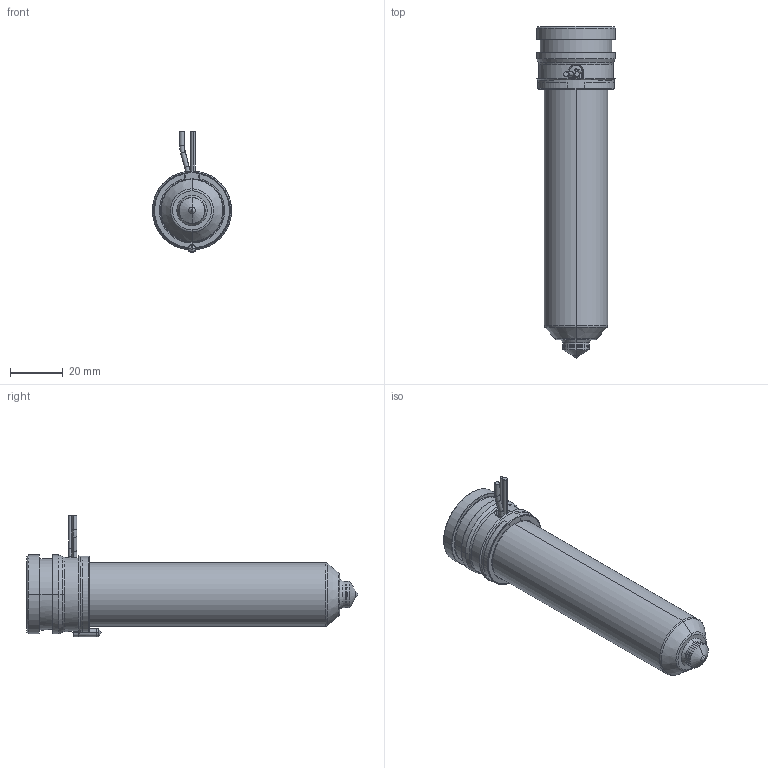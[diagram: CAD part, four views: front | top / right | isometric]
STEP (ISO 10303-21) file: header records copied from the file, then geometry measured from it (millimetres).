
FILE_DESCRIPTION((''),'2;1');
FILE_NAME('MPN-10-29-TS10-106-A','2026-02-05T12:33:06',('UPTIO'),('Thermoplay S.p.A.'),'CREO PARAMETRIC BY PTC INC, 2023494','CREO PARAMETRIC BY PTC INC, 2023494','');
FILE_SCHEMA(('CONFIG_CONTROL_DESIGN','SHAPE_APPEARANCE_LAYERS_GROUPS'));
Length unit declared in the file: millimetre
Products named in the file (1): MPN-10-29-TS10-106-A
Bounding box: 30 x 126 x 46 mm (x, y, z)
Volume: 40004.1 mm3; surface area: 39879.7 mm2
Topology: 2 solids, 3 shells, 552 faces, 1455 edges, 898 vertices
Faces by surface type: cylinder 180, plane 145, bspline 78, torus 68, cone 66, sphere 11, extrusion 4
Entity records: 28567 total; most frequent: CARTESIAN_POINT 12188, ORIENTED_EDGE 2894, DIRECTION 2651, EDGE_CURVE 1447, AXIS2_PLACEMENT_3D 1051, VERTEX_POINT 898, EDGE_LOOP 581, CIRCLE 580
